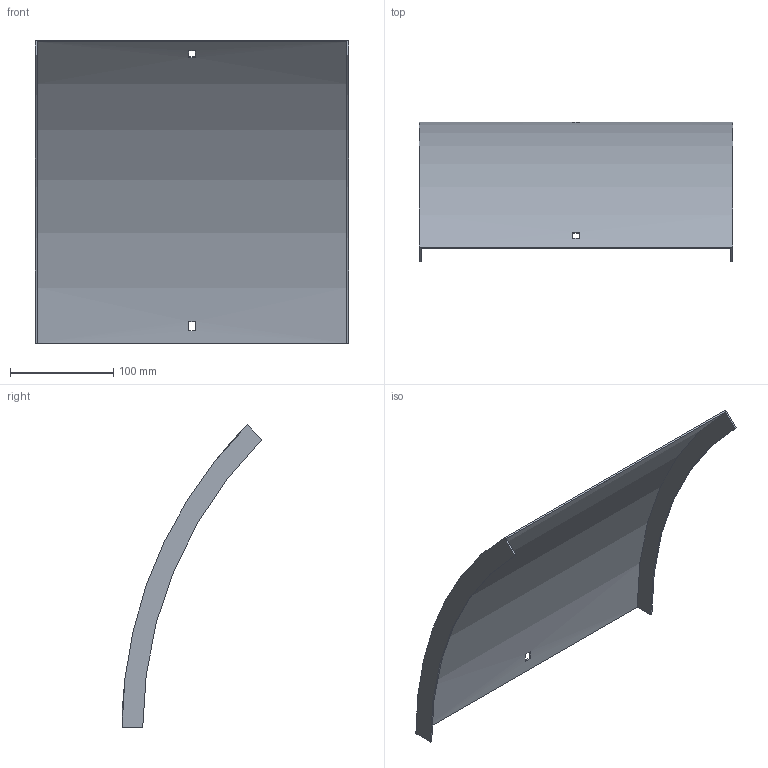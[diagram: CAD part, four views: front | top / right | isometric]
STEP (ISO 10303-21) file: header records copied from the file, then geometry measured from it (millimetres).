
FILE_DESCRIPTION (( 'STEP AP214' ), '1' );
FILE_NAME ('B2_34N3J300.step', '2025-02-21T10:37:00', ( '' ), ( '' ), 'SwSTEP 2.0', 'SolidWorks 2023', '' );
FILE_SCHEMA (( 'AUTOMOTIVE_DESIGN' ));
Length unit declared in the file: millimetre
Products named in the file (1): B2_34N3J300
Bounding box: 303 x 135.4 x 292.74 mm (x, y, z)
Volume: 164917 mm3; surface area: 221932.5 mm2
Topology: 1 solids, 1 shells, 18 faces, 48 edges, 32 vertices
Faces by surface type: plane 14, cylinder 4
Entity records: 599 total; most frequent: DIRECTION 102, CARTESIAN_POINT 99, ORIENTED_EDGE 96, EDGE_CURVE 48, AXIS2_PLACEMENT_3D 35, VERTEX_POINT 32, LINE 32, VECTOR 32
